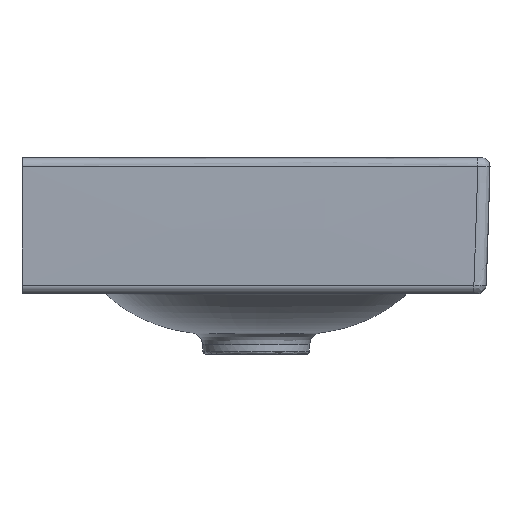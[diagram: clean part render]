
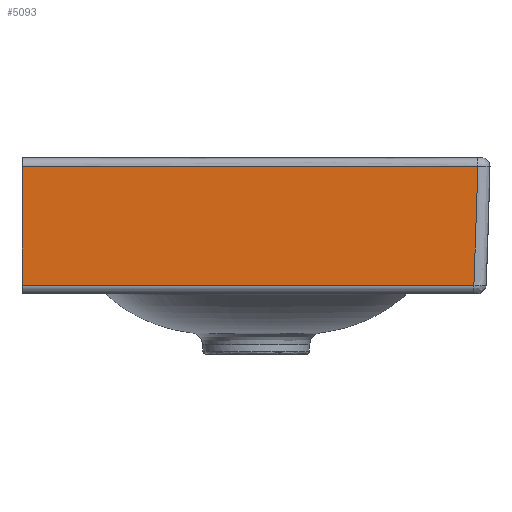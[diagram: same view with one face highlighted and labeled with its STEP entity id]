
A CAD part, left-side view. The second image highlights one B-rep face of the part: STEP entity #5093.
In plain terms, the highlighted free-form (B-spline) face has degree [3, 3] with [7, 4] control points.
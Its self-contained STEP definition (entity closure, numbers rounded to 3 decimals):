
#34=B_SPLINE_SURFACE_WITH_KNOTS('',3,3,((#46285,#46286,#46287,#46288),(#46289,
#46290,#46291,#46292),(#46293,#46294,#46295,#46296),(#46297,#46298,#46299,
#46300),(#46301,#46302,#46303,#46304),(#46305,#46306,#46307,#46308),(#46309,
#46310,#46311,#46312)),.UNSPECIFIED.,.F.,.F.,.F.,(4,1,1,1,4),(4,4),(0.,
0.267,0.535,0.802,1.),(0.,1.),
 .UNSPECIFIED.);
#413=LINE('',#46283,#655);
#414=LINE('',#46314,#656);
#655=VECTOR('',#6443,10.);
#656=VECTOR('',#6446,10.);
#1291=FACE_OUTER_BOUND('',#1607,.T.);
#1607=EDGE_LOOP('',(#4171,#4172,#4173,#4174));
#1856=B_SPLINE_CURVE_WITH_KNOTS('',3,(#45735,#45736,#45737,#45738,#45739,
#45740,#45741,#45742,#45743),.UNSPECIFIED.,.F.,.F.,(4,1,1,1,1,1,4),(0.,
0.196,0.464,0.598,0.732,
0.866,1.),.UNSPECIFIED.);
#1859=B_SPLINE_CURVE_WITH_KNOTS('',3,(#46315,#46316,#46317,#46318,#46319,
#46320),.UNSPECIFIED.,.F.,.F.,(4,2,4),(-9.493,-4.079,
0.),.UNSPECIFIED.);
#2156=VERTEX_POINT('',#34899);
#2238=VERTEX_POINT('',#45667);
#2248=VERTEX_POINT('',#46282);
#2249=VERTEX_POINT('',#46313);
#2906=EDGE_CURVE('',#2156,#2238,#1856,.T.);
#2923=EDGE_CURVE('',#2248,#2156,#413,.T.);
#2925=EDGE_CURVE('',#2238,#2249,#414,.T.);
#2926=EDGE_CURVE('',#2248,#2249,#1859,.T.);
#4171=ORIENTED_EDGE('',*,*,#2906,.T.);
#4172=ORIENTED_EDGE('',*,*,#2925,.T.);
#4173=ORIENTED_EDGE('',*,*,#2926,.F.);
#4174=ORIENTED_EDGE('',*,*,#2923,.T.);
#5093=ADVANCED_FACE('',(#1291),#34,.T.);
#6443=DIRECTION('',(0.,-1.,0.));
#6446=DIRECTION('',(0.,1.,0.));
#34899=CARTESIAN_POINT('',(-339.182,-299.182,765.835));
#45667=CARTESIAN_POINT('',(-340.,-301.84,844.071));
#45735=CARTESIAN_POINT('Ctrl Pts',(-339.182,-299.182,765.835));
#45736=CARTESIAN_POINT('Ctrl Pts',(-339.326,-299.384,771.06));
#45737=CARTESIAN_POINT('Ctrl Pts',(-339.547,-299.845,
783.265));
#45738=CARTESIAN_POINT('Ctrl Pts',(-339.656,-300.397,
798.714));
#45739=CARTESIAN_POINT('Ctrl Pts',(-339.796,-300.869,
812.655));
#45740=CARTESIAN_POINT('Ctrl Pts',(-339.903,-301.209,
823.134));
#45741=CARTESIAN_POINT('Ctrl Pts',(-339.98,-301.534,
833.622));
#45742=CARTESIAN_POINT('Ctrl Pts',(-340.,-301.74,840.581));
#45743=CARTESIAN_POINT('Ctrl Pts',(-340.,-301.84,844.071));
#46282=CARTESIAN_POINT('',(-339.182,0.,765.835));
#46283=CARTESIAN_POINT('',(-339.182,0.,765.835));
#46285=CARTESIAN_POINT('Ctrl Pts',(-340.,0.,
844.071));
#46286=CARTESIAN_POINT('Ctrl Pts',(-340.,-100.613,
844.071));
#46287=CARTESIAN_POINT('Ctrl Pts',(-340.,-201.227,
844.071));
#46288=CARTESIAN_POINT('Ctrl Pts',(-340.,-301.84,
844.071));
#46289=CARTESIAN_POINT('Ctrl Pts',(-340.,0.182,
837.116));
#46290=CARTESIAN_POINT('Ctrl Pts',(-340.,-100.431,
837.116));
#46291=CARTESIAN_POINT('Ctrl Pts',(-340.,-201.045,
837.116));
#46292=CARTESIAN_POINT('Ctrl Pts',(-340.,-301.658,
837.116));
#46293=CARTESIAN_POINT('Ctrl Pts',(-339.919,0.54,
823.434));
#46294=CARTESIAN_POINT('Ctrl Pts',(-339.919,-100.073,
823.434));
#46295=CARTESIAN_POINT('Ctrl Pts',(-339.919,-200.686,
823.434));
#46296=CARTESIAN_POINT('Ctrl Pts',(-339.919,-301.3,
823.434));
#46297=CARTESIAN_POINT('Ctrl Pts',(-339.686,1.075,803.035));
#46298=CARTESIAN_POINT('Ctrl Pts',(-339.686,-99.539,
803.035));
#46299=CARTESIAN_POINT('Ctrl Pts',(-339.686,-200.152,
803.035));
#46300=CARTESIAN_POINT('Ctrl Pts',(-339.686,-300.766,
803.035));
#46301=CARTESIAN_POINT('Ctrl Pts',(-339.556,1.573,784.007));
#46302=CARTESIAN_POINT('Ctrl Pts',(-339.556,-99.041,
784.007));
#46303=CARTESIAN_POINT('Ctrl Pts',(-339.556,-199.654,
784.007));
#46304=CARTESIAN_POINT('Ctrl Pts',(-339.556,-300.267,
784.007));
#46305=CARTESIAN_POINT('Ctrl Pts',(-339.334,1.904,771.366));
#46306=CARTESIAN_POINT('Ctrl Pts',(-339.334,-98.71,
771.366));
#46307=CARTESIAN_POINT('Ctrl Pts',(-339.334,-199.323,
771.366));
#46308=CARTESIAN_POINT('Ctrl Pts',(-339.334,-299.936,
771.366));
#46309=CARTESIAN_POINT('Ctrl Pts',(-339.182,2.049,765.835));
#46310=CARTESIAN_POINT('Ctrl Pts',(-339.182,-98.565,
765.835));
#46311=CARTESIAN_POINT('Ctrl Pts',(-339.182,-199.178,
765.835));
#46312=CARTESIAN_POINT('Ctrl Pts',(-339.182,-299.792,
765.835));
#46313=CARTESIAN_POINT('',(-340.,0.,844.071));
#46314=CARTESIAN_POINT('',(-340.,-301.84,844.071));
#46315=CARTESIAN_POINT('Ctrl Pts',(-339.182,0.,
765.835));
#46316=CARTESIAN_POINT('Ctrl Pts',(-339.541,0.,
778.849));
#46317=CARTESIAN_POINT('Ctrl Pts',(-339.567,0.,
788.833));
#46318=CARTESIAN_POINT('Ctrl Pts',(-339.831,0.,
816.742));
#46319=CARTESIAN_POINT('Ctrl Pts',(-340.,0.,
830.476));
#46320=CARTESIAN_POINT('Ctrl Pts',(-340.,0.,
844.071));
